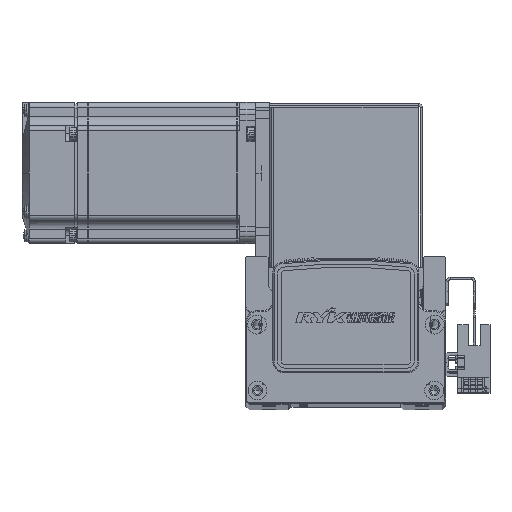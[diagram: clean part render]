
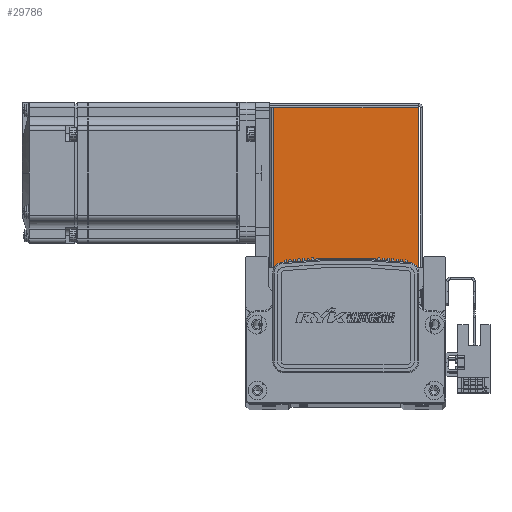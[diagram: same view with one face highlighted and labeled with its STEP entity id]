
A CAD part, top view. The second image highlights one B-rep face of the part: STEP entity #29786.
In plain terms, the highlighted planar face has unit normal (0, 0, 1).
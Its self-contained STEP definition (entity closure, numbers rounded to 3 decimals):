
#4663 = CARTESIAN_POINT ( 'NONE',  ( -30.793, 68.5, 35. ) ) ;
#4683 = CARTESIAN_POINT ( 'NONE',  ( -30.793, 0.737, 35. ) ) ;
#4689 = CARTESIAN_POINT ( 'NONE',  ( 30.763, 0.737, 35. ) ) ;
#4695 = CARTESIAN_POINT ( 'NONE',  ( 30.763, 68.5, 35. ) ) ;
#8539 = VERTEX_POINT ( 'NONE', #4663 ) ;
#8578 = VERTEX_POINT ( 'NONE', #4695 ) ;
#8584 = VERTEX_POINT ( 'NONE', #4689 ) ;
#8598 = VERTEX_POINT ( 'NONE', #4683 ) ;
#29786 = ADVANCED_FACE ( 'NONE', ( #49013 ), #47373, .F. ) ;
#40785 = CARTESIAN_POINT ( 'NONE',  ( 30.763, 0.737, 35. ) ) ;
#40810 = DIRECTION ( 'NONE',  ( 0., 1., 0. ) ) ;
#40898 = DIRECTION ( 'NONE',  ( 0., 1., 0. ) ) ;
#40915 = CARTESIAN_POINT ( 'NONE',  ( -30.793, 0., 35. ) ) ;
#40918 = CARTESIAN_POINT ( 'NONE',  ( -32.5, 0.737, 35. ) ) ;
#40919 = DIRECTION ( 'NONE',  ( -1., 0., 0. ) ) ;
#40939 = DIRECTION ( 'NONE',  ( -1., 0., 0. ) ) ;
#40947 = CARTESIAN_POINT ( 'NONE',  ( 0., 68.5, 35. ) ) ;
#46266 = EDGE_LOOP ( 'NONE', ( #61027, #61054, #61026, #61044 ) ) ;
#47373 = PLANE ( 'NONE',  #75882 ) ;
#47376 = CARTESIAN_POINT ( 'NONE',  ( 0., 0., 35. ) ) ;
#47417 = DIRECTION ( 'NONE',  ( -1., 0., 0. ) ) ;
#47469 = DIRECTION ( 'NONE',  ( 0., 0., -1. ) ) ;
#49013 = FACE_OUTER_BOUND ( 'NONE', #46266, .T. ) ;
#61026 = ORIENTED_EDGE ( 'NONE', *, *, #61316, .F. ) ;
#61027 = ORIENTED_EDGE ( 'NONE', *, *, #61275, .T. ) ;
#61044 = ORIENTED_EDGE ( 'NONE', *, *, #61350, .F. ) ;
#61054 = ORIENTED_EDGE ( 'NONE', *, *, #61357, .T. ) ;
#61275 = EDGE_CURVE ( 'NONE', #8584, #8578, #74965, .T. ) ;
#61316 = EDGE_CURVE ( 'NONE', #8598, #8539, #74980, .T. ) ;
#61350 = EDGE_CURVE ( 'NONE', #8584, #8598, #75025, .T. ) ;
#61357 = EDGE_CURVE ( 'NONE', #8578, #8539, #75000, .T. ) ;
#74932 = VECTOR ( 'NONE', #40810, 1000. ) ;
#74952 = VECTOR ( 'NONE', #40898, 1000. ) ;
#74965 = LINE ( 'NONE', #40785, #74932 ) ;
#74980 = LINE ( 'NONE', #40915, #74952 ) ;
#74996 = VECTOR ( 'NONE', #40919, 1000. ) ;
#75000 = LINE ( 'NONE', #40947, #74996 ) ;
#75004 = VECTOR ( 'NONE', #40939, 1000. ) ;
#75025 = LINE ( 'NONE', #40918, #75004 ) ;
#75882 = AXIS2_PLACEMENT_3D ( 'NONE', #47376, #47469, #47417 ) ;
